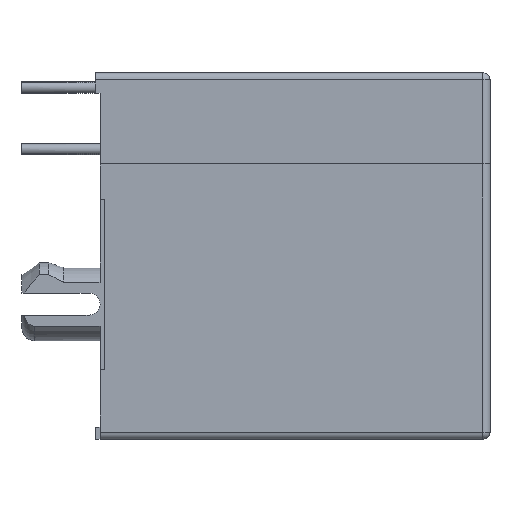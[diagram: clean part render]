
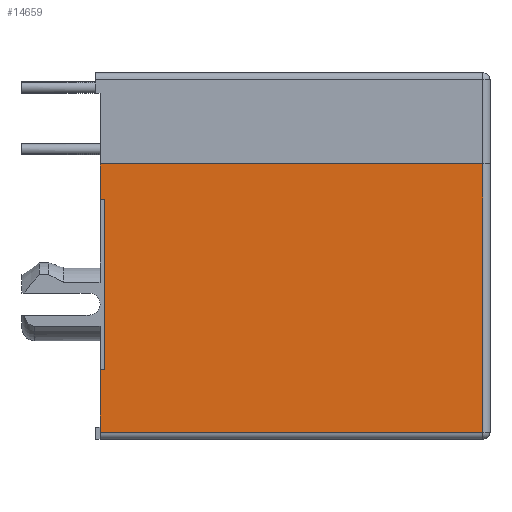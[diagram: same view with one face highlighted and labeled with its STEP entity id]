
A CAD part, front view. The second image highlights one B-rep face of the part: STEP entity #14659.
In plain terms, the highlighted planar face has unit normal (0, -1, 0).
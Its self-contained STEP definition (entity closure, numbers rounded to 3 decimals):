
#82=DIRECTION('',(0.,0.,-1.));
#83=VECTOR('',#82,2.56);
#84=CARTESIAN_POINT('',(0.,-27.75,-12.19));
#85=LINE('',#84,#83);
#576=DIRECTION('',(0.,0.,-1.));
#577=VECTOR('',#576,1.45);
#578=CARTESIAN_POINT('',(0.,-27.75,-3.75));
#579=LINE('',#578,#577);
#4118=DIRECTION('',(0.,0.,-1.));
#4119=VECTOR('',#4118,11.);
#4120=CARTESIAN_POINT('',(15.7,-27.75,-3.75));
#4121=LINE('',#4120,#4119);
#4122=DIRECTION('',(-1.,0.,0.));
#4123=VECTOR('',#4122,15.7);
#4124=CARTESIAN_POINT('',(15.7,-27.75,-14.75));
#4125=LINE('',#4124,#4123);
#4126=DIRECTION('',(1.,0.,0.));
#4127=VECTOR('',#4126,0.2);
#4128=CARTESIAN_POINT('',(0.,-27.75,-12.19));
#4129=LINE('',#4128,#4127);
#4130=DIRECTION('',(0.,0.,-1.));
#4131=VECTOR('',#4130,6.99);
#4132=CARTESIAN_POINT('',(0.2,-27.75,-5.2));
#4133=LINE('',#4132,#4131);
#4134=DIRECTION('',(1.,0.,0.));
#4135=VECTOR('',#4134,0.2);
#4136=CARTESIAN_POINT('',(0.,-27.75,-5.2));
#4137=LINE('',#4136,#4135);
#4138=DIRECTION('',(1.,0.,0.));
#4139=VECTOR('',#4138,15.7);
#4140=CARTESIAN_POINT('',(0.,-27.75,-3.75));
#4141=LINE('',#4140,#4139);
#7484=CARTESIAN_POINT('',(0.,-27.75,-3.75));
#7486=VERTEX_POINT('',#7484);
#9178=CARTESIAN_POINT('',(0.,-27.75,-5.2));
#9180=VERTEX_POINT('',#9178);
#9188=CARTESIAN_POINT('',(0.,-27.75,-12.19));
#9189=VERTEX_POINT('',#9188);
#9206=CARTESIAN_POINT('',(0.2,-27.75,-5.2));
#9207=CARTESIAN_POINT('',(0.2,-27.75,-12.19));
#9208=VERTEX_POINT('',#9206);
#9209=VERTEX_POINT('',#9207);
#9282=CARTESIAN_POINT('',(15.7,-27.75,-3.75));
#9283=CARTESIAN_POINT('',(15.7,-27.75,-14.75));
#9284=VERTEX_POINT('',#9282);
#9285=VERTEX_POINT('',#9283);
#9287=CARTESIAN_POINT('',(0.,-27.75,-14.75));
#9289=VERTEX_POINT('',#9287);
#14641=CARTESIAN_POINT('',(0.,-27.75,0.));
#14642=DIRECTION('',(0.,-1.,0.));
#14643=DIRECTION('',(0.,0.,-1.));
#14644=AXIS2_PLACEMENT_3D('',#14641,#14642,#14643);
#14645=PLANE('',#14644);
#14646=ORIENTED_EDGE('',*,*,#12309,.T.);
#14648=ORIENTED_EDGE('',*,*,#14647,.T.);
#14649=ORIENTED_EDGE('',*,*,#9831,.F.);
#14651=ORIENTED_EDGE('',*,*,#14650,.T.);
#14652=ORIENTED_EDGE('',*,*,#14630,.F.);
#14654=ORIENTED_EDGE('',*,*,#14653,.F.);
#14655=ORIENTED_EDGE('',*,*,#10117,.F.);
#14656=ORIENTED_EDGE('',*,*,#12295,.T.);
#14657=EDGE_LOOP('',(#14646,#14648,#14649,#14651,#14652,#14654,#14655,#14656));
#14658=FACE_OUTER_BOUND('',#14657,.F.);
#14659=ADVANCED_FACE('',(#14658),#14645,.T.);
#9831=EDGE_CURVE('',#9189,#9289,#85,.T.);
#10117=EDGE_CURVE('',#7486,#9180,#579,.T.);
#12295=EDGE_CURVE('',#7486,#9284,#4141,.T.);
#12309=EDGE_CURVE('',#9284,#9285,#4121,.T.);
#14630=EDGE_CURVE('',#9208,#9209,#4133,.T.);
#14647=EDGE_CURVE('',#9285,#9289,#4125,.T.);
#14650=EDGE_CURVE('',#9189,#9209,#4129,.T.);
#14653=EDGE_CURVE('',#9180,#9208,#4137,.T.);
